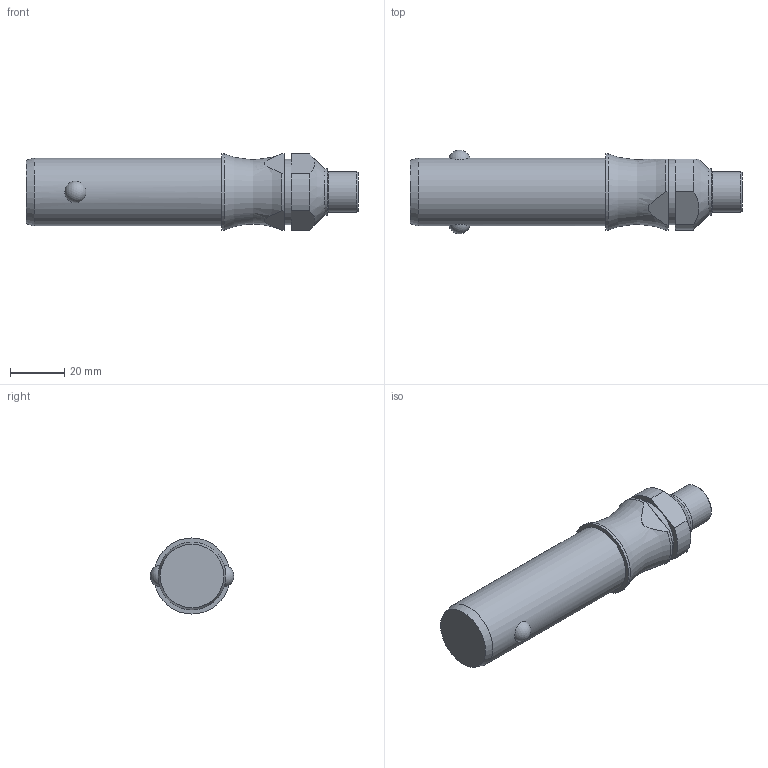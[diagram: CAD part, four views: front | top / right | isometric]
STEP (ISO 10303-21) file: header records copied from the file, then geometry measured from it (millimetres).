
FILE_DESCRIPTION( ( 'STEP AP203' ), '1' );
FILE_NAME( 'C:/Temp/Ganter_Step_05_03_2020/data/3_1/gn113_3/Stainless Steel-Ball lock pin GN 113.3-25-50 (deactivated).stp', '2020-03-12T08:19:08', ( 'License CC BY-ND 4.0' ), ( 'CADENAS' ), ' ', 'PARTsolutions', ' ' );
FILE_SCHEMA( ( 'CONFIG_CONTROL_DESIGN' ) );
Length unit declared in the file: millimetre
Products named in the file (1): _Stainless Steel-Ball lock pin GN 113.3-25-50 (deactivated)
Bounding box: 122.1 x 30.75 x 28 mm (x, y, z)
Volume: 56218.7 mm3; surface area: 10440.7 mm2
Topology: 1 solids, 1 shells, 29 faces, 62 edges, 40 vertices
Faces by surface type: plane 11, cylinder 11, cone 4, sphere 2, torus 1
Full cylindrical faces by diameter (mm): 15 x1, 17 x1, 24 x1, 25 x1, 28 x1
Entity records: 1006 total; most frequent: CARTESIAN_POINT 376, DIRECTION 126, ORIENTED_EDGE 100, AXIS2_PLACEMENT_3D 54, EDGE_CURVE 50, EDGE_LOOP 44, VERTEX_POINT 38, FACE_OUTER_BOUND 35
